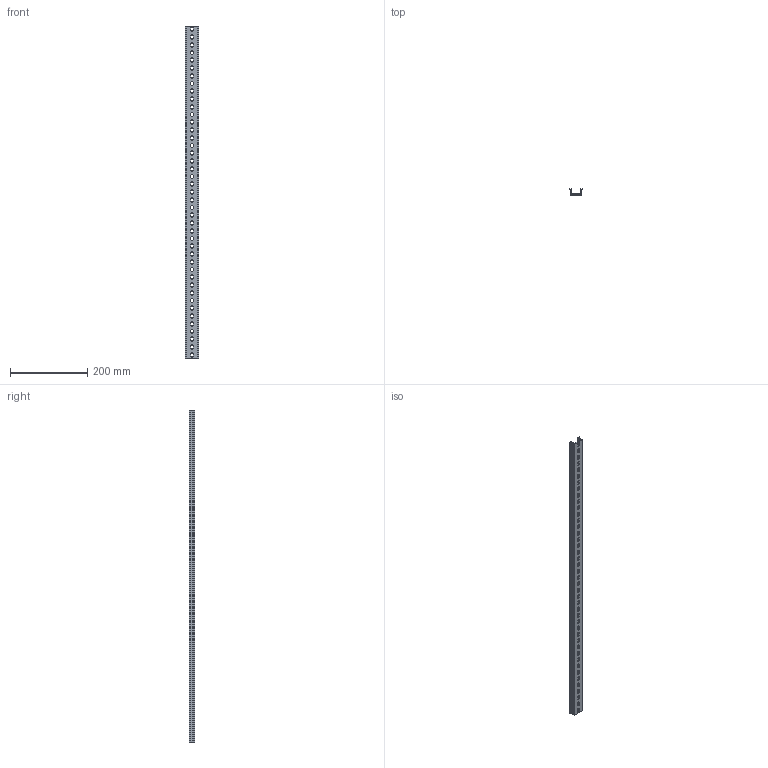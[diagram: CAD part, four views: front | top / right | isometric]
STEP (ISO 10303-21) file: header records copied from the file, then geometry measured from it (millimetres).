
FILE_DESCRIPTION(/* description */ (''),/* implementation_level */ '2;1');
FILE_NAME(/* name */ '22650-(TKB KD-43)HP 3D.stp',/* time_stamp */ '2024-12-05T14:24:55+09:00',/* author */ ('usercadg104'),/* organization */ (''),/* preprocessor_version */ 'ST-DEVELOPER v19.2',/* originating_system */ 'Autodesk Inventor 2023',/* authorisation */ '');
FILE_SCHEMA (('CONFIG_CONTROL_DESIGN'));
Length unit declared in the file: millimetre
Products named in the file (1): TKB KD-3(林)
Bounding box: 35 x 15 x 857 mm (x, y, z)
Volume: 100269.3 mm3; surface area: 115761.4 mm2
Topology: 1 solids, 1 shells, 212 faces, 630 edges, 420 vertices
Faces by surface type: plane 122, cylinder 90
Entity records: 7349 total; most frequent: CARTESIAN_POINT 1263, ORIENTED_EDGE 1260, DIRECTION 1236, EDGE_CURVE 630, LINE 450, VECTOR 450, VERTEX_POINT 420, AXIS2_PLACEMENT_3D 393
